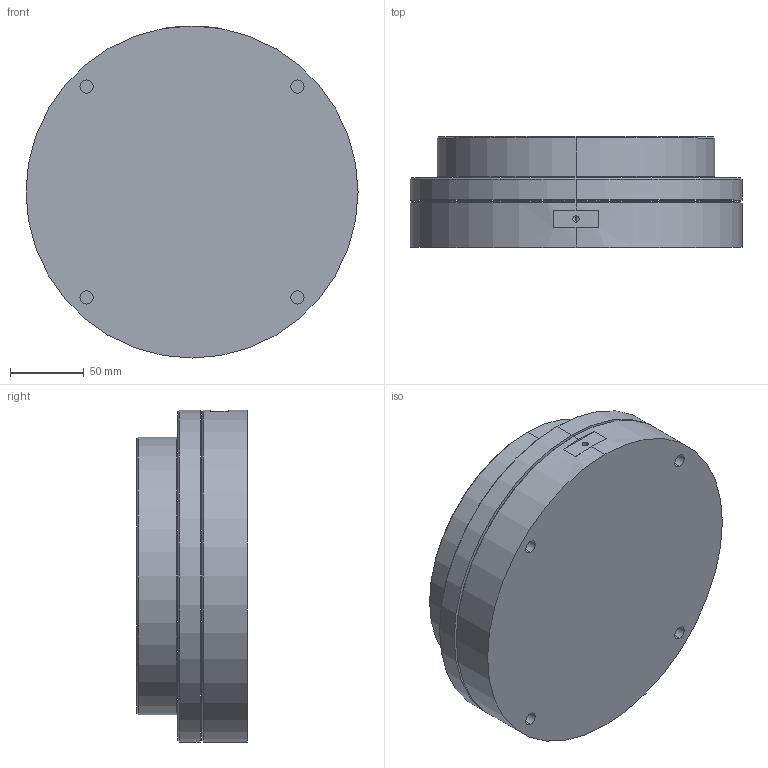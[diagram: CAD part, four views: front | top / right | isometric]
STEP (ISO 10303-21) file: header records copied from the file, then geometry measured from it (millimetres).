
FILE_DESCRIPTION (( 'STEP AP203' ), '1' );
FILE_NAME ('PVXM1000R-50.STEP', '2015-12-21T02:36:38', ( '' ), ( '' ), 'SwSTEP 2.0', 'SolidWorks 2013', '' );
FILE_SCHEMA (( 'CONFIG_CONTROL_DESIGN' ));
Length unit declared in the file: millimetre
Products named in the file (1): PVXM1000R-50
Bounding box: 225 x 75 x 225 mm (x, y, z)
Volume: 2567131.7 mm3; surface area: 263741.2 mm2
Topology: 1 solids, 1 shells, 51 faces, 115 edges, 73 vertices
Faces by surface type: cylinder 28, plane 15, cone 8
Entity records: 1530 total; most frequent: DIRECTION 283, CARTESIAN_POINT 238, ORIENTED_EDGE 226, AXIS2_PLACEMENT_3D 118, EDGE_CURVE 113, VERTEX_POINT 73, EDGE_LOOP 68, CIRCLE 66
